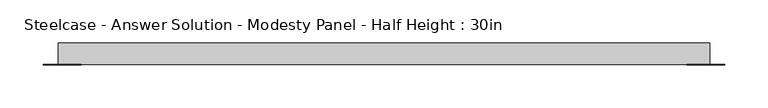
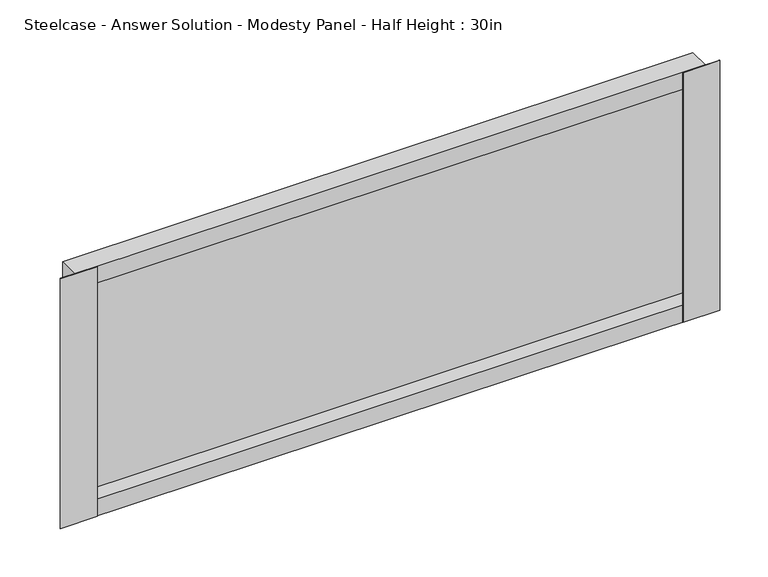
"""IFC4 building model written with IfcOpenShell, lengths in millimetres: furniture geometry, Steelcase - Answer Solution - Modesty Panel - Half Height : 30in."""

from ifc_helpers import new_model, si_unit, frame, origin, place, context, project, spatial, polyline, outline, extrude, faceted_brep, source, transform, mapped, element, save


def steelcase_answer_solution_modesty_panel_half_height_30in_79e2bd85(model_context):
    return source(origin(), model_context, "Body", "SolidModel", [
        extrude(outline(polyline([(1305.5400478, -14.2668826), (1305.5400478, -15.0593624), (1261.1248254, -15.0593624), (1261.1248254, -14.2668826), (1305.5400478, -14.2668826)])), frame((0.0, 0.0, 17.653), z_axis=(0.0, 0.0, 1.0), x_axis=(1.0, 0.0, 0.0)), (0.0, 0.0, 1.0), 317.5),
        extrude(outline(polyline([(556.9673392, -14.2668826), (556.9673392, -15.0593624), (512.5520826, -15.0593624), (512.5520826, -14.2668826), (556.9673392, -14.2668826)])), frame((0.0, 0.0, 17.653), z_axis=(0.0, 0.0, 1.0), x_axis=(1.0, 0.0, 0.0)), (0.0, 0.0, 1.0), 317.5),
        faceted_brep([(530.0780827, 10.9045177, 17.653), (530.0780827, -14.2668826, 17.653), (530.0780827, -14.2668826, 335.153), (530.0780827, 10.9045177, 335.153), (1288.0140827, -14.2668826, 17.653), (1288.0140827, 10.9045177, 17.653), (1288.0140827, 10.9045177, 335.153), (1288.0140827, -14.2668826, 335.153), (1287.2216165, 4.7831174, 39.243), (530.8705628, 4.7831174, 39.243), (530.8705628, -14.2668826, 39.243), (1287.2216165, -14.2668826, 39.243), (530.8705628, -14.2668826, 313.563), (1287.2216165, -14.2668826, 313.563), (530.8705628, 4.7831174, 313.563), (1287.2216165, 4.7831174, 313.563)], [[[0, 1, 2, 3]], [[4, 5, 6, 7]], [[8, 9, 10, 11]], [[0, 3, 6, 5]], [[4, 1, 0, 5]], [[2, 1, 4, 7], [10, 12, 13, 11]], [[3, 2, 7, 6]], [[14, 15, 13, 12]], [[9, 8, 15, 14]], [[12, 10, 9, 14]], [[11, 13, 15, 8]]]),
    ])


if __name__ == "__main__":
    model = new_model("IFC4")
    model_context = context("Model", 3, world=origin())
    ifc_project = project(units=[si_unit("LENGTHUNIT", "METRE", prefix="MILLI")], contexts=[model_context])
    site = spatial("IfcSite", under=ifc_project)
    building = spatial("IfcBuilding", under=site)
    placement = place(None, origin())
    steelcase_answer_solution_modesty_panel_half_height_30in_shape = steelcase_answer_solution_modesty_panel_half_height_30in_79e2bd85(model_context)
    element("IfcFurniture", 1, ObjectType="Steelcase - Answer Solution - Modesty Panel - Half Height : 30in", at=placement, inside=building, context=model_context, shape_type="MappedRepresentation", body=[
        mapped(steelcase_answer_solution_modesty_panel_half_height_30in_shape, transform((0.0, 0.0, 0.0), x_axis=(1.0, 0.0, 0.0), y_axis=(0.0, 1.0, 0.0), z_axis=(0.0, 0.0, 1.0))),
    ])
    save(model, "model.ifc")
